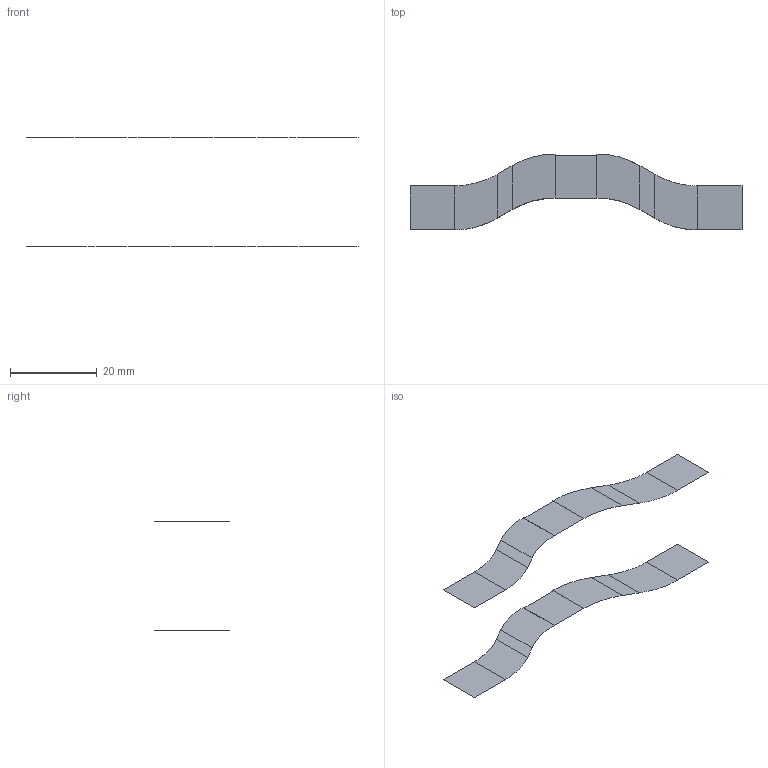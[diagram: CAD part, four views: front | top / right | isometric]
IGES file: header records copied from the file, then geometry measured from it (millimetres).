
Start section: 3D InterOp IGES (Version 26 0 0), Spatial Corp. Copyright (c) 1999-2007.
Global section: file name: extrusion_guide.igs; native system: Spatial Corp.; preprocessor: 3D InterOp ACIS/IGES; author: Noname; organization: Noname; date: 20160121.162122; units: millimetre
Bounding box: 76.71 x 17.49 x 25.4 mm (x, y, z)
Surface area: 1549.2 mm2 (no closed solid volume)
Topology: 0 solids, 0 shells, 18 faces, 208 edges, 208 vertices
Faces by surface type: extrusion 10, bspline 8
